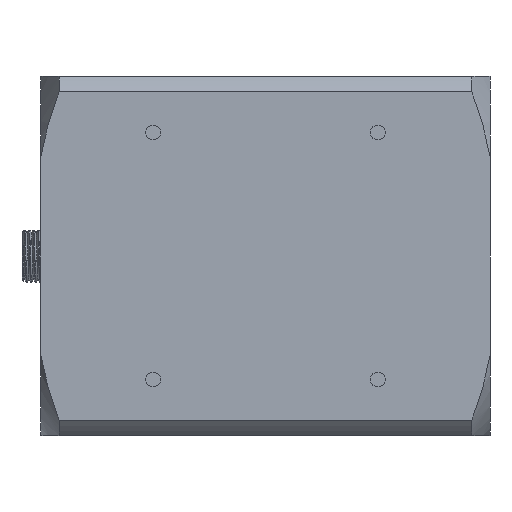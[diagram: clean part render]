
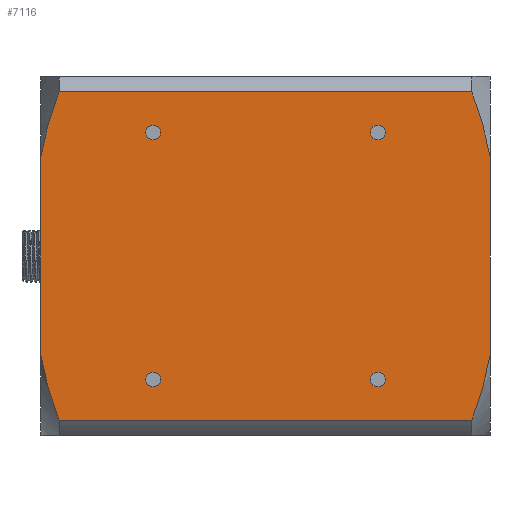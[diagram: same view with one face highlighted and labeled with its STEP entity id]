
A CAD part, front view. The second image highlights one B-rep face of the part: STEP entity #7116.
In plain terms, the highlighted planar face has unit normal (0, -1, 0).
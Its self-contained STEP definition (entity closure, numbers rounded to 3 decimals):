
#977=LINE('',#36308,#2977);
#979=LINE('',#36325,#2979);
#981=LINE('',#36340,#2981);
#983=LINE('',#36348,#2983);
#2977=VECTOR('',#29627,1.);
#2979=VECTOR('',#29641,1.);
#2981=VECTOR('',#29649,1.);
#2983=VECTOR('',#29659,1.);
#5516=FACE_BOUND('',#10148,.T.);
#5517=FACE_BOUND('',#10149,.T.);
#5518=FACE_BOUND('',#10150,.T.);
#5519=FACE_BOUND('',#10151,.T.);
#5520=FACE_BOUND('',#10152,.T.);
#6292=PLANE('',#27419);
#7116=ADVANCED_FACE('',(#5516,#5517,#5518,#5519,#5520),#6292,.T.);
#10148=EDGE_LOOP('',(#13126,#13127));
#10149=EDGE_LOOP('',(#13128,#13129));
#10150=EDGE_LOOP('',(#13130,#13131));
#10151=EDGE_LOOP('',(#13132,#13133));
#10152=EDGE_LOOP('',(#13134,#13135,#13136,#13137,#13138,#13139,#13140,#13141));
#12160=CIRCLE('',#27403,1.65);
#12161=CIRCLE('',#27405,1.65);
#12162=CIRCLE('',#27407,1.65);
#12163=CIRCLE('',#27409,1.65);
#12164=CIRCLE('',#27411,1.65);
#12165=CIRCLE('',#27413,1.65);
#12166=CIRCLE('',#27415,1.65);
#12167=CIRCLE('',#27417,1.65);
#13126=ORIENTED_EDGE('',*,*,#22800,.T.);
#13127=ORIENTED_EDGE('',*,*,#22798,.T.);
#13128=ORIENTED_EDGE('',*,*,#22796,.T.);
#13129=ORIENTED_EDGE('',*,*,#22794,.T.);
#13130=ORIENTED_EDGE('',*,*,#22792,.T.);
#13131=ORIENTED_EDGE('',*,*,#22790,.T.);
#13132=ORIENTED_EDGE('',*,*,#22788,.T.);
#13133=ORIENTED_EDGE('',*,*,#22786,.T.);
#13134=ORIENTED_EDGE('',*,*,#22781,.F.);
#13135=ORIENTED_EDGE('',*,*,#22801,.T.);
#13136=ORIENTED_EDGE('',*,*,#22764,.F.);
#13137=ORIENTED_EDGE('',*,*,#22762,.F.);
#13138=ORIENTED_EDGE('',*,*,#22771,.T.);
#13139=ORIENTED_EDGE('',*,*,#22772,.F.);
#13140=ORIENTED_EDGE('',*,*,#22776,.F.);
#13141=ORIENTED_EDGE('',*,*,#22726,.T.);
#20270=VERTEX_POINT('',#36193);
#20271=VERTEX_POINT('',#36194);
#20302=VERTEX_POINT('',#36300);
#20303=VERTEX_POINT('',#36305);
#20304=VERTEX_POINT('',#36309);
#20308=VERTEX_POINT('',#36324);
#20309=VERTEX_POINT('',#36331);
#20312=VERTEX_POINT('',#36347);
#20314=VERTEX_POINT('',#36360);
#20315=VERTEX_POINT('',#36362);
#20316=VERTEX_POINT('',#36368);
#20317=VERTEX_POINT('',#36370);
#20318=VERTEX_POINT('',#36376);
#20319=VERTEX_POINT('',#36378);
#20320=VERTEX_POINT('',#36384);
#20321=VERTEX_POINT('',#36386);
#22726=EDGE_CURVE('',#20270,#20271,#26360,.T.);
#22762=EDGE_CURVE('',#20302,#20303,#26370,.T.);
#22764=EDGE_CURVE('',#20303,#20304,#977,.T.);
#22771=EDGE_CURVE('',#20302,#20308,#979,.T.);
#22772=EDGE_CURVE('',#20309,#20308,#26372,.T.);
#22776=EDGE_CURVE('',#20270,#20309,#981,.T.);
#22781=EDGE_CURVE('',#20312,#20271,#983,.T.);
#22786=EDGE_CURVE('',#20315,#20314,#12160,.T.);
#22788=EDGE_CURVE('',#20314,#20315,#12161,.T.);
#22790=EDGE_CURVE('',#20317,#20316,#12162,.T.);
#22792=EDGE_CURVE('',#20316,#20317,#12163,.T.);
#22794=EDGE_CURVE('',#20319,#20318,#12164,.T.);
#22796=EDGE_CURVE('',#20318,#20319,#12165,.T.);
#22798=EDGE_CURVE('',#20321,#20320,#12166,.T.);
#22800=EDGE_CURVE('',#20320,#20321,#12167,.T.);
#22801=EDGE_CURVE('',#20312,#20304,#26375,.T.);
#26360=B_SPLINE_CURVE_WITH_KNOTS('',3,(#36189,#36190,#36191,#36192),
 .UNSPECIFIED.,.F.,.F.,(4,4),(0.,1.),.UNSPECIFIED.);
#26370=B_SPLINE_CURVE_WITH_KNOTS('',3,(#36301,#36302,#36303,#36304),
 .UNSPECIFIED.,.F.,.F.,(4,4),(0.,1.),.UNSPECIFIED.);
#26372=B_SPLINE_CURVE_WITH_KNOTS('',3,(#36327,#36328,#36329,#36330),
 .UNSPECIFIED.,.F.,.F.,(4,4),(0.,1.),.UNSPECIFIED.);
#26375=B_SPLINE_CURVE_WITH_KNOTS('',3,(#36391,#36392,#36393,#36394),
 .UNSPECIFIED.,.F.,.F.,(4,4),(0.,1.),.UNSPECIFIED.);
#27403=AXIS2_PLACEMENT_3D('',#36361,#29670,#29671);
#27405=AXIS2_PLACEMENT_3D('',#36365,#29675,#29676);
#27407=AXIS2_PLACEMENT_3D('',#36369,#29680,#29681);
#27409=AXIS2_PLACEMENT_3D('',#36373,#29685,#29686);
#27411=AXIS2_PLACEMENT_3D('',#36377,#29690,#29691);
#27413=AXIS2_PLACEMENT_3D('',#36381,#29695,#29696);
#27415=AXIS2_PLACEMENT_3D('',#36385,#29700,#29701);
#27417=AXIS2_PLACEMENT_3D('',#36389,#29705,#29706);
#27419=AXIS2_PLACEMENT_3D('',#36395,#29709,#29710);
#29627=DIRECTION('',(1.,0.,0.));
#29641=DIRECTION('',(0.,0.,-1.));
#29649=DIRECTION('',(-1.,0.,0.));
#29659=DIRECTION('',(0.,0.,-1.));
#29670=DIRECTION('',(0.,1.,0.));
#29671=DIRECTION('',(0.,0.,1.));
#29675=DIRECTION('',(0.,1.,0.));
#29676=DIRECTION('',(0.,0.,-1.));
#29680=DIRECTION('',(0.,1.,0.));
#29681=DIRECTION('',(0.,0.,1.));
#29685=DIRECTION('',(0.,1.,0.));
#29686=DIRECTION('',(0.,0.,-1.));
#29690=DIRECTION('',(0.,1.,0.));
#29691=DIRECTION('',(0.,0.,1.));
#29695=DIRECTION('',(0.,1.,0.));
#29696=DIRECTION('',(0.,0.,-1.));
#29700=DIRECTION('',(0.,1.,0.));
#29701=DIRECTION('',(0.,0.,1.));
#29705=DIRECTION('',(0.,1.,0.));
#29706=DIRECTION('',(0.,0.,-1.));
#29709=DIRECTION('',(0.,-1.,0.));
#29710=DIRECTION('',(0.,0.,1.));
#36189=CARTESIAN_POINT('',(90.959,-74.49,43.959));
#36190=CARTESIAN_POINT('',(92.723,-74.49,48.642));
#36191=CARTESIAN_POINT('',(94.214,-74.49,53.401));
#36192=CARTESIAN_POINT('',(95.,-74.49,58.359));
#36193=CARTESIAN_POINT('',(90.959,-74.49,43.959));
#36194=CARTESIAN_POINT('',(95.,-74.49,58.359));
#36300=CARTESIAN_POINT('',(-5.,-74.49,102.641));
#36301=CARTESIAN_POINT('',(-5.,-74.49,102.641));
#36302=CARTESIAN_POINT('',(-4.214,-74.49,107.599));
#36303=CARTESIAN_POINT('',(-2.723,-74.49,112.358));
#36304=CARTESIAN_POINT('',(-0.959,-74.49,117.041));
#36305=CARTESIAN_POINT('',(-0.959,-74.49,117.041));
#36308=CARTESIAN_POINT('',(-5.,-74.49,117.041));
#36309=CARTESIAN_POINT('',(90.959,-74.49,117.041));
#36324=CARTESIAN_POINT('',(-5.,-74.49,58.359));
#36325=CARTESIAN_POINT('',(-5.,-74.49,102.041));
#36327=CARTESIAN_POINT('',(-0.959,-74.49,43.959));
#36328=CARTESIAN_POINT('',(-2.723,-74.49,48.642));
#36329=CARTESIAN_POINT('',(-4.214,-74.49,53.401));
#36330=CARTESIAN_POINT('',(-5.,-74.49,58.359));
#36331=CARTESIAN_POINT('',(-0.959,-74.49,43.959));
#36340=CARTESIAN_POINT('',(95.,-74.49,43.959));
#36347=CARTESIAN_POINT('',(95.,-74.49,102.641));
#36348=CARTESIAN_POINT('',(95.,-74.49,102.041));
#36360=CARTESIAN_POINT('',(20.,-74.49,106.35));
#36361=CARTESIAN_POINT('',(20.,-74.49,108.));
#36362=CARTESIAN_POINT('',(20.,-74.49,109.65));
#36365=CARTESIAN_POINT('',(20.,-74.49,108.));
#36368=CARTESIAN_POINT('',(70.,-74.49,51.35));
#36369=CARTESIAN_POINT('',(70.,-74.49,53.));
#36370=CARTESIAN_POINT('',(70.,-74.49,54.65));
#36373=CARTESIAN_POINT('',(70.,-74.49,53.));
#36376=CARTESIAN_POINT('',(20.,-74.49,51.35));
#36377=CARTESIAN_POINT('',(20.,-74.49,53.));
#36378=CARTESIAN_POINT('',(20.,-74.49,54.65));
#36381=CARTESIAN_POINT('',(20.,-74.49,53.));
#36384=CARTESIAN_POINT('',(70.,-74.49,106.35));
#36385=CARTESIAN_POINT('',(70.,-74.49,108.));
#36386=CARTESIAN_POINT('',(70.,-74.49,109.65));
#36389=CARTESIAN_POINT('',(70.,-74.49,108.));
#36391=CARTESIAN_POINT('',(95.,-74.49,102.641));
#36392=CARTESIAN_POINT('',(94.214,-74.49,107.599));
#36393=CARTESIAN_POINT('',(92.723,-74.49,112.358));
#36394=CARTESIAN_POINT('',(90.959,-74.49,117.041));
#36395=CARTESIAN_POINT('',(95.,-74.49,55.5));
